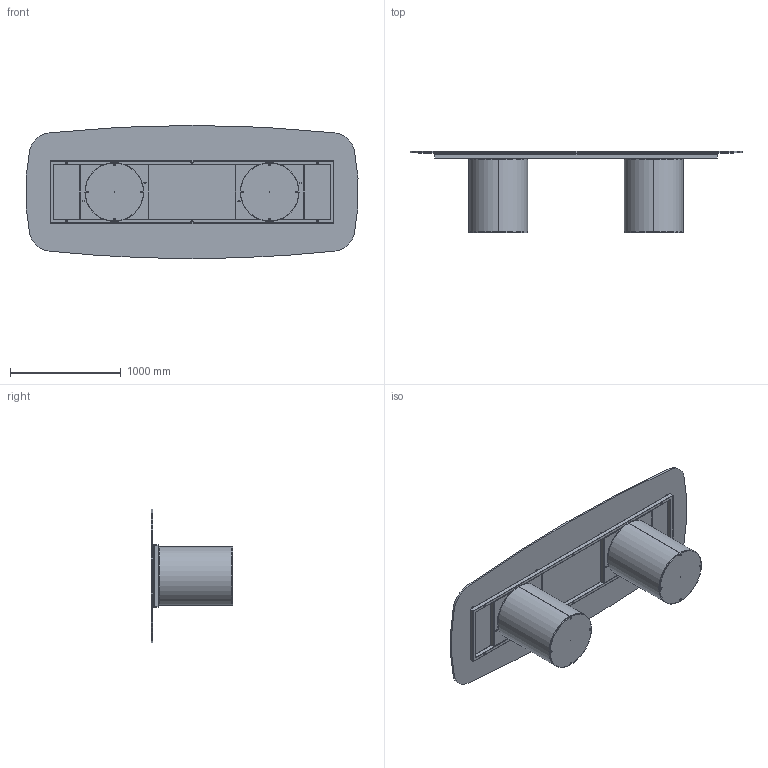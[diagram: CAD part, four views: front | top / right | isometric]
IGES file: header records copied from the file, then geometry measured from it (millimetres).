
Start section: SolidWorks IGES file using analytic representation for surfaces
Global section: file name: Y:\eforma\TECNICO\SOLIDWORKS\E-FORMA\1-TAVOLI\CILINDRO\02 parts\CI44G.IGS; native system: SolidWorks 2022; preprocessor: SolidWorks 2022; author: eforma.tech; date: 240808.091209; units: millimetre
Bounding box: 2991.72 x 735 x 1200 mm (x, y, z)
Volume: 65021953.6 mm3; surface area: 15902948.8 mm2
Topology: 38 solids, 38 shells, 975 faces, 2219 edges, 1278 vertices
Faces by surface type: revolution 533, plane 442
